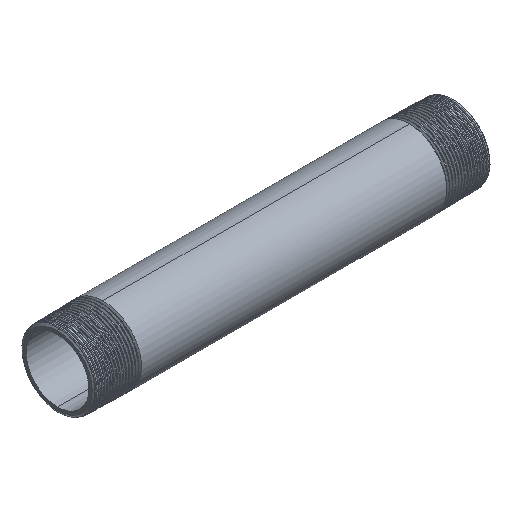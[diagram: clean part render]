
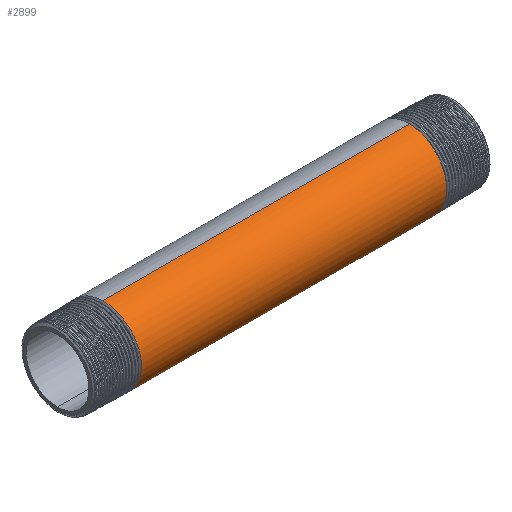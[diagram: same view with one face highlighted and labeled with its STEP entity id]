
A CAD part, isometric view. The second image highlights one B-rep face of the part: STEP entity #2899.
In plain terms, the highlighted cylindrical face has radius 8.6 mm (diameter 17.2 mm), a partial arc.
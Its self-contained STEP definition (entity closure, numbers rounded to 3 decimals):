
#13 = CARTESIAN_POINT ( 'NONE',  ( 34.62, -7.478, 4.248 ) ) ;
#532 = CARTESIAN_POINT ( 'NONE',  ( 34.388, 0., -8.6 ) ) ;
#555 = CARTESIAN_POINT ( 'NONE',  ( -34.679, -4.965, 8.6 ) ) ;
#872 = CARTESIAN_POINT ( 'NONE',  ( 34.722, -1.123, 8.531 ) ) ;
#1377 = CARTESIAN_POINT ( 'NONE',  ( 34.567, -8.595, 0.341 ) ) ;
#1420 = VERTEX_POINT ( 'NONE', #7212 ) ;
#1434 = CARTESIAN_POINT ( 'NONE',  ( 34.527, -8.214, -2.62 ) ) ;
#1541 = CARTESIAN_POINT ( 'NONE',  ( -149.494, 0., -8.6 ) ) ;
#1646 = CARTESIAN_POINT ( 'NONE',  ( -149.494, 0., 0. ) ) ;
#1819 = CARTESIAN_POINT ( 'NONE',  ( 34.662, -5.287, 6.876 ) ) ;
#1870 = CARTESIAN_POINT ( 'NONE',  ( 34.706, -2.231, 8.325 ) ) ;
#1929 = ORIENTED_EDGE ( 'NONE', *, *, #2969, .T. ) ;
#2397 = CARTESIAN_POINT ( 'NONE',  ( 34.505, -7.5, -4.208 ) ) ;
#2450 = CARTESIAN_POINT ( 'NONE',  ( 34.411, -1.843, -8.416 ) ) ;
#2622 = CARTESIAN_POINT ( 'NONE',  ( 34.737, -0.07, 8.6 ) ) ;
#2723 = CARTESIAN_POINT ( 'NONE',  ( 34.622, -7.396, 4.388 ) ) ;
#2755 = LINE ( 'NONE', #6208, #7918 ) ;
#2899 = ADVANCED_FACE ( 'NONE', ( #9428 ), #10540, .T. ) ;
#2924 = CARTESIAN_POINT ( 'NONE',  ( -34.738, 0., 8.6 ) ) ;
#2969 = EDGE_CURVE ( 'NONE', #1420, #6800, #2755, .T. ) ;
#3015 = CARTESIAN_POINT ( 'NONE',  ( -34.738, 0., 8.6 ) ) ;
#3255 = CARTESIAN_POINT ( 'NONE',  ( 34.446, -4.297, -7.452 ) ) ;
#3312 = CARTESIAN_POINT ( 'NONE',  ( 34.552, -8.598, -0.766 ) ) ;
#3474 = CARTESIAN_POINT ( 'NONE',  ( 34.622, -7.419, 4.349 ) ) ;
#3577 = CARTESIAN_POINT ( 'NONE',  ( 34.738, 0., 8.6 ) ) ;
#3917 = CARTESIAN_POINT ( 'NONE',  ( 34.443, -4.133, -7.544 ) ) ;
#3977 = CARTESIAN_POINT ( 'NONE',  ( 34.504, -7.454, -4.29 ) ) ;
#4097 = CARTESIAN_POINT ( 'NONE',  ( 34.431, -3.335, -7.934 ) ) ;
#4212 = CARTESIAN_POINT ( 'NONE',  ( 34.699, -2.772, 8.16 ) ) ;
#4832 = CARTESIAN_POINT ( 'NONE',  ( 34.543, -8.5, -1.441 ) ) ;
#4855 = CARTESIAN_POINT ( 'NONE',  ( -34.563, -9.93, 0. ) ) ;
#4894 = CARTESIAN_POINT ( 'NONE',  ( 34.392, -0.377, -8.6 ) ) ;
#5031 = AXIS2_PLACEMENT_3D ( 'NONE', #1646, #5162, #6309 ) ;
#5082 = CARTESIAN_POINT ( 'NONE',  ( -34.738, 0., 8.6 ) ) ;
#5162 = DIRECTION ( 'NONE',  ( -1., 0., 0. ) ) ;
#5280 = CARTESIAN_POINT ( 'NONE',  ( 34.734, -0.246, 8.597 ) ) ;
#5330 = CARTESIAN_POINT ( 'NONE',  ( 34.624, -7.315, 4.524 ) ) ;
#5643 = CARTESIAN_POINT ( 'NONE',  ( -34.388, 0., -8.6 ) ) ;
#5680 = CARTESIAN_POINT ( 'NONE',  ( 34.585, -8.444, 1.66 ) ) ;
#5852 = CARTESIAN_POINT ( 'NONE',  ( 34.506, -7.524, -4.166 ) ) ;
#5904 = CARTESIAN_POINT ( 'NONE',  ( 34.574, -8.559, 0.855 ) ) ;
#6029 = VERTEX_POINT ( 'NONE', #8745 ) ;
#6074 = CARTESIAN_POINT ( 'NONE',  ( 34.737, -0.033, 8.6 ) ) ;
#6127 = CARTESIAN_POINT ( 'NONE',  ( 34.622, -7.414, 4.358 ) ) ;
#6176 = CARTESIAN_POINT ( 'NONE',  ( 34.634, -6.84, 5.244 ) ) ;
#6208 = CARTESIAN_POINT ( 'NONE',  ( -149.494, 0., 8.6 ) ) ;
#6309 = DIRECTION ( 'NONE',  ( 0., 0., 1. ) ) ;
#6369 = ORIENTED_EDGE ( 'NONE', *, *, #10823, .F. ) ;
#6527 = CARTESIAN_POINT ( 'NONE',  ( 34.572, -8.574, 0.686 ) ) ;
#6585 = CARTESIAN_POINT ( 'NONE',  ( 34.451, -4.607, -7.264 ) ) ;
#6703 = CARTESIAN_POINT ( 'NONE',  ( 34.473, -5.934, -6.251 ) ) ;
#6759 = CARTESIAN_POINT ( 'NONE',  ( 34.565, -8.6, 0.168 ) ) ;
#6768 = VERTEX_POINT ( 'NONE', #8294 ) ;
#6800 = VERTEX_POINT ( 'NONE', #3015 ) ;
#6815 = CARTESIAN_POINT ( 'NONE',  ( 34.676, -4.333, 7.514 ) ) ;
#6872 = CARTESIAN_POINT ( 'NONE',  ( 34.604, -8.051, 3.062 ) ) ;
#6925 = CARTESIAN_POINT ( 'NONE',  ( 34.718, -1.402, 8.49 ) ) ;
#6978 = CARTESIAN_POINT ( 'NONE',  ( 34.641, -6.481, 5.681 ) ) ;
#7212 = CARTESIAN_POINT ( 'NONE',  ( 34.738, 0., 8.6 ) ) ;
#7439 = CARTESIAN_POINT ( 'NONE',  ( 34.597, -8.237, 2.544 ) ) ;
#7486 = ORIENTED_EDGE ( 'NONE', *, *, #8713, .T. ) ;
#7555 = CARTESIAN_POINT ( 'NONE',  ( 34.453, -4.755, -7.168 ) ) ;
#7613 = CARTESIAN_POINT ( 'NONE',  ( 34.52, -8.026, -3.124 ) ) ;
#7717 = LINE ( 'NONE', #1541, #9412 ) ;
#7784 = CARTESIAN_POINT ( 'NONE',  ( 34.613, -7.751, 3.734 ) ) ;
#7918 = VECTOR ( 'NONE', #9683, 1000. ) ;
#8030 = B_SPLINE_CURVE_WITH_KNOTS ( 'NONE', 3,
 ( #532, #4894, #8417, #2450, #10003, #4097, #9144, #3917, #3255, #6585, #7555, #11030, #6703, #9202, #8355, #10852, #10181, #9324, #3977, #2397, #5852, #11092, #8474, #7613, #1434, #4832, #3312, #6759, #1377, #6527, #5904, #9378, #5680, #7439, #6872, #7784, #9652, #8744, #13, #10352, #3474, #6127, #2723, #5330, #9601, #6176, #6978, #1819, #6815, #4212, #1870, #6925, #872, #10408, #11146, #5280, #8638, #2622, #6074, #3577 ),
 .UNSPECIFIED., .F., .F.,
 ( 4, 2, 2, 2, 2, 2, 2, 2, 2, 2, 2, 2, 2, 2, 2, 2, 2, 2, 2, 1, 2, 2, 1, 2, 2, 2, 2, 2, 1, 1, 2, 4 ),
 ( 0., 0.001, 0.003, 0.004, 0.004, 0.004, 0.006, 0.007, 0.008, 0.008, 0.008, 0.009, 0.01, 0.012, 0.012, 0.012, 0.013, 0.015, 0.015, 0.015, 0.016, 0.016, 0.016, 0.016, 0.018, 0.02, 0.022, 0.023, 0.023, 0.023, 0.023, 0.023 ),
 .UNSPECIFIED. ) ;
#8294 = CARTESIAN_POINT ( 'NONE',  ( -34.388, 0., -8.6 ) ) ;
#8355 = CARTESIAN_POINT ( 'NONE',  ( 34.494, -6.999, -5.016 ) ) ;
#8417 = CARTESIAN_POINT ( 'NONE',  ( 34.397, -0.824, -8.576 ) ) ;
#8474 = CARTESIAN_POINT ( 'NONE',  ( 34.512, -7.739, -3.759 ) ) ;
#8638 = CARTESIAN_POINT ( 'NONE',  ( 34.736, -0.141, 8.599 ) ) ;
#8713 = EDGE_CURVE ( 'NONE', #6029, #1420, #8030, .T. ) ;
#8744 = CARTESIAN_POINT ( 'NONE',  ( 34.619, -7.517, 4.178 ) ) ;
#8745 = CARTESIAN_POINT ( 'NONE',  ( 34.388, 0., -8.6 ) ) ;
#8800 = ORIENTED_EDGE ( 'NONE', *, *, #10145, .F. ) ;
#8939 = CARTESIAN_POINT ( 'NONE',  ( -34.738, 0., 8.6 ) ) ;
#9111 = CARTESIAN_POINT ( 'NONE',  ( -34.621, -7.448, 4.3 ) ) ;
#9144 = CARTESIAN_POINT ( 'NONE',  ( 34.436, -3.651, -7.795 ) ) ;
#9168 = CARTESIAN_POINT ( 'NONE',  ( -34.446, -4.965, -8.6 ) ) ;
#9202 = CARTESIAN_POINT ( 'NONE',  ( 34.488, -6.7, -5.421 ) ) ;
#9324 = CARTESIAN_POINT ( 'NONE',  ( 34.504, -7.428, -4.334 ) ) ;
#9378 = CARTESIAN_POINT ( 'NONE',  ( 34.581, -8.5, 1.348 ) ) ;
#9412 = VECTOR ( 'NONE', #11192, 1000. ) ;
#9428 = FACE_OUTER_BOUND ( 'NONE', #10339, .T. ) ;
#9601 = CARTESIAN_POINT ( 'NONE',  ( 34.626, -7.231, 4.658 ) ) ;
#9652 = CARTESIAN_POINT ( 'NONE',  ( 34.616, -7.647, 3.941 ) ) ;
#9683 = DIRECTION ( 'NONE',  ( -1., 0., 0. ) ) ;
#10003 = CARTESIAN_POINT ( 'NONE',  ( 34.418, -2.416, -8.28 ) ) ;
#10145 = EDGE_CURVE ( 'NONE', #6029, #6768, #7717, .T. ) ;
#10181 = CARTESIAN_POINT ( 'NONE',  ( 34.502, -7.351, -4.465 ) ) ;
#10339 = EDGE_LOOP ( 'NONE', ( #8800, #7486, #1929, #6369 ) ) ;
#10352 = CARTESIAN_POINT ( 'NONE',  ( 34.621, -7.439, 4.316 ) ) ;
#10408 = CARTESIAN_POINT ( 'NONE',  ( 34.728, -0.703, 8.572 ) ) ;
#10540 = CYLINDRICAL_SURFACE ( 'NONE', #5031, 8.6 ) ;
#10823 = EDGE_CURVE ( 'NONE', #6768, #6800, #11132, .T. ) ;
#10852 = CARTESIAN_POINT ( 'NONE',  ( 34.501, -7.295, -4.555 ) ) ;
#10876 = CARTESIAN_POINT ( 'NONE',  ( -34.504, -7.448, -4.3 ) ) ;
#11030 = CARTESIAN_POINT ( 'NONE',  ( 34.465, -5.466, -6.676 ) ) ;
#11092 = CARTESIAN_POINT ( 'NONE',  ( 34.509, -7.642, -3.95 ) ) ;
#11132 =( BOUNDED_CURVE ( )  B_SPLINE_CURVE ( 2, ( #5643, #9168, #10876, #4855, #9111, #555, #8939, #2924, #5082 ),
 .UNSPECIFIED., .F., .T. ) 
 B_SPLINE_CURVE_WITH_KNOTS ( ( 3, 2, 2, 2, 3 ),
 ( 0., 0.008, 0.016, 0.023, 0.023 ),
 .UNSPECIFIED. ) 
 CURVE ( )  GEOMETRIC_REPRESENTATION_ITEM ( )  RATIONAL_B_SPLINE_CURVE ( ( 1., 0.866, 1., 0.866, 1., 0.866, 1., 1., 1. ) ) 
 REPRESENTATION_ITEM ( '' )  );
#11146 = CARTESIAN_POINT ( 'NONE',  ( 34.731, -0.493, 8.588 ) ) ;
#11192 = DIRECTION ( 'NONE',  ( -1., 0., 0. ) ) ;
